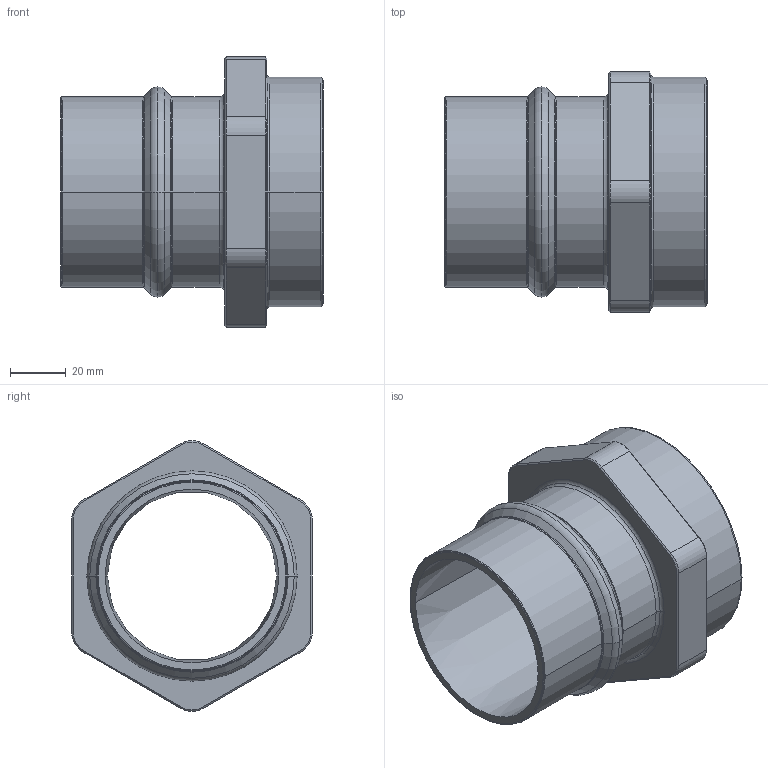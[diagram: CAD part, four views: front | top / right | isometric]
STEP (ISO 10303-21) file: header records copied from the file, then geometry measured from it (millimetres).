
FILE_DESCRIPTION((''),'2;1');
FILE_NAME('AU15661900','2017-05-16T',('Administrator'),(''),'PRO/ENGINEER BY PARAMETRIC TECHNOLOGY CORPORATION, 2009360','PRO/ENGINEER BY PARAMETRIC TECHNOLOGY CORPORATION, 2009360','');
FILE_SCHEMA(('AUTOMOTIVE_DESIGN_CC2 { 1 2 10303 214 -1 1 5 2 }'));
Length unit declared in the file: millimetre
Products named in the file (1): AU15661900
Bounding box: 94.19 x 86.44 x 97.31 mm (x, y, z)
Volume: 110759.6 mm3; surface area: 48567.6 mm2
Topology: 1 solids, 1 shells, 91 faces, 201 edges, 115 vertices
Faces by surface type: torus 36, plane 23, cone 18, cylinder 14
Entity records: 2544 total; most frequent: DIRECTION 510, CARTESIAN_POINT 407, ORIENTED_EDGE 402, AXIS2_PLACEMENT_3D 218, EDGE_CURVE 201, CIRCLE 127, VERTEX_POINT 115, EDGE_LOOP 96
